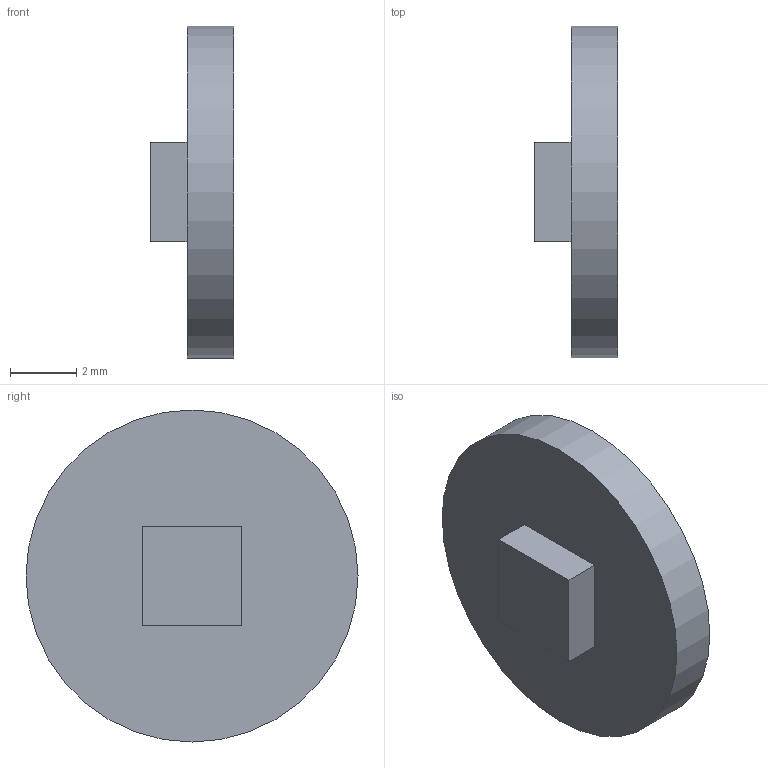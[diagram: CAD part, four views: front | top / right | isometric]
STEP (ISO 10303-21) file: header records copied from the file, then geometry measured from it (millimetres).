
FILE_DESCRIPTION(('Open CASCADE Model'),'2;1');
FILE_NAME('Open CASCADE Shape Model','2026-09-08T16:14:21',('Author'),( 'Open CASCADE'),'Open CASCADE STEP processor 7.7','Open CASCADE 7.7' ,'Unknown');
FILE_SCHEMA(('AUTOMOTIVE_DESIGN { 1 0 10303 214 1 1 1 1 }'));
Length unit declared in the file: millimetre
Products named in the file (1): Open CASCADE STEP translator 7.7 15
Bounding box: 2.5 x 10 x 10 mm (x, y, z)
Volume: 119.9 mm3; surface area: 214.3 mm2
Topology: 1 solids, 1 shells, 8 faces, 15 edges, 10 vertices
Faces by surface type: plane 7, cylinder 1
Full cylindrical faces by diameter (mm): 10 x1
Entity records: 406 total; most frequent: DIRECTION 65, CARTESIAN_POINT 64, LINE 41, VECTOR 41, ORIENTED_EDGE 30, PCURVE 30, DEFINITIONAL_REPRESENTATION 30, EDGE_CURVE 15
